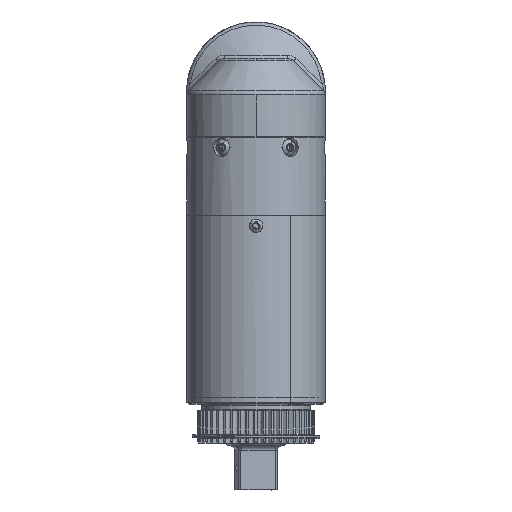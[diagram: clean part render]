
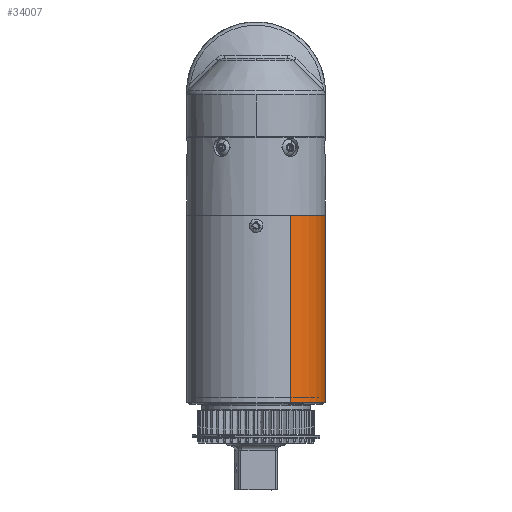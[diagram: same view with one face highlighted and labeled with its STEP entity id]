
A CAD part, top view. The second image highlights one B-rep face of the part: STEP entity #34007.
In plain terms, the highlighted cylindrical face has radius 33.655 mm (diameter 67.31 mm), a partial arc.
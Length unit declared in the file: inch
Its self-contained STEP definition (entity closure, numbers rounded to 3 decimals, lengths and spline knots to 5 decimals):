
#39 = CARTESIAN_POINT ( 'NONE',  ( 1.15758, -2.65834, 2.35899 ) ) ;
#148 = CARTESIAN_POINT ( 'NONE',  ( 1.11189, -2.54313, 2.28309 ) ) ;
#7502 = CARTESIAN_POINT ( 'NONE',  ( 1.13471, -2.50837, 2.31959 ) ) ;
#7677 = VERTEX_POINT ( 'NONE', #53025 ) ;
#8590 = CARTESIAN_POINT ( 'NONE',  ( 1.12084, -2.52363, 2.29709 ) ) ;
#9039 = CARTESIAN_POINT ( 'NONE',  ( 1.17059, -2.52044, 2.38297 ) ) ;
#10271 = CARTESIAN_POINT ( 'NONE',  ( 1.14231, -2.65987, 2.33235 ) ) ;
#10495 = VERTEX_POINT ( 'NONE', #83255 ) ;
#13197 = CARTESIAN_POINT ( 'NONE',  ( 0., -2.37738, 3.00375 ) ) ;
#15954 = CARTESIAN_POINT ( 'NONE',  ( 1.14491, -2.50438, 2.33679 ) ) ;
#17509 = CARTESIAN_POINT ( 'NONE',  ( 1.17242, -2.52367, 2.38644 ) ) ;
#18623 = VERTEX_POINT ( 'NONE', #47883 ) ;
#22236 = CARTESIAN_POINT ( 'NONE',  ( 1.1845, -2.57731, 2.40995 ) ) ;
#22467 = CARTESIAN_POINT ( 'NONE',  ( 1.11214, -2.62147, 2.28349 ) ) ;
#23340 = CARTESIAN_POINT ( 'NONE',  ( 1.17723, -2.62999, 2.39566 ) ) ;
#23490 = LINE ( 'NONE', #39871, #61104 ) ;
#24958 = CARTESIAN_POINT ( 'NONE',  ( 1.12745, -2.51468, 2.3077 ) ) ;
#26684 = ORIENTED_EDGE ( 'NONE', *, *, #108559, .T. ) ;
#26847 = EDGE_LOOP ( 'NONE', ( #50240, #83557, #37810, #97987 ) ) ;
#27737 = CARTESIAN_POINT ( 'NONE',  ( 1.12085, -2.64115, 2.29711 ) ) ;
#27908 = FACE_BOUND ( 'NONE', #56008, .T. ) ;
#28213 = EDGE_CURVE ( 'NONE', #18623, #99049, #41337, .T. ) ;
#28285 = CARTESIAN_POINT ( 'NONE',  ( 1.1298, -2.65248, 2.31151 ) ) ;
#28454 = DIRECTION ( 'NONE',  ( 0., -1., 0. ) ) ;
#28986 = AXIS2_PLACEMENT_3D ( 'NONE', #13197, #30106, #65067 ) ;
#29014 = DIRECTION ( 'NONE',  ( 0.5, 0., 0.866 ) ) ;
#30106 = DIRECTION ( 'NONE',  ( 0., 1., 0. ) ) ;
#30938 = CARTESIAN_POINT ( 'NONE',  ( 1.13722, -2.65787, 2.32376 ) ) ;
#31208 = VECTOR ( 'NONE', #90908, 39.37008 ) ;
#31256 = CARTESIAN_POINT ( 'NONE',  ( 1.18427, -2.57223, 2.4095 ) ) ;
#33851 = B_SPLINE_CURVE_WITH_KNOTS ( 'NONE', 3,
 ( #50357, #15954, #51476, #84766, #7502, #102277, #24958, #85888, #8590, #42993, #148, #34537, #68974, #103397, #73794, #105627, #47301, #99776, #22467, #104498, #56863, #27737, #87570, #108271, #28285, #70619, #30938, #10271, #44678, #45232 ),
 .UNSPECIFIED., .F., .F.,
 ( 4, 2, 2, 2, 2, 2, 2, 2, 2, 2, 2, 2, 2, 2, 4 ),
 ( 0., 0.00039, 0.00077, 0.00116, 0.00155, 0.00232, 0.0031, 0.00348, 0.00387, 0.00426, 0.00465, 0.00503, 0.00542, 0.00581, 0.00619 ),
 .UNSPECIFIED. ) ;
#34007 = ADVANCED_FACE ( 'NONE', ( #37483, #27908 ), #43739, .T. ) ;
#34429 = CARTESIAN_POINT ( 'NONE',  ( 1.17982, -2.62151, 2.40071 ) ) ;
#34537 = CARTESIAN_POINT ( 'NONE',  ( 1.10763, -2.5619, 2.27657 ) ) ;
#37483 = FACE_OUTER_BOUND ( 'NONE', #26847, .T. ) ;
#37810 = ORIENTED_EDGE ( 'NONE', *, *, #61172, .T. ) ;
#39871 = CARTESIAN_POINT ( 'NONE',  ( -0.6625, -2.37738, 1.85627 ) ) ;
#40737 = DIRECTION ( 'NONE',  ( 0., 1., 0. ) ) ;
#41337 = CIRCLE ( 'NONE', #104412, 1.325 ) ;
#42993 = CARTESIAN_POINT ( 'NONE',  ( 1.11505, -2.53443, 2.28797 ) ) ;
#43452 = CARTESIAN_POINT ( 'NONE',  ( 1.16657, -2.51473, 2.37546 ) ) ;
#43739 = CYLINDRICAL_SURFACE ( 'NONE', #48901, 1.325 ) ;
#44572 = CARTESIAN_POINT ( 'NONE',  ( 1.15264, -2.50438, 2.35018 ) ) ;
#44678 = CARTESIAN_POINT ( 'NONE',  ( 1.14492, -2.66038, 2.33682 ) ) ;
#45232 = CARTESIAN_POINT ( 'NONE',  ( 1.14747, -2.66038, 2.34123 ) ) ;
#45990 = VERTEX_POINT ( 'NONE', #96138 ) ;
#47301 = CARTESIAN_POINT ( 'NONE',  ( 1.10868, -2.60746, 2.27817 ) ) ;
#47883 = CARTESIAN_POINT ( 'NONE',  ( 0.6625, -5.95988, 4.15123 ) ) ;
#48177 = CARTESIAN_POINT ( 'NONE',  ( 1.15256, -2.66038, 2.35004 ) ) ;
#48901 = AXIS2_PLACEMENT_3D ( 'NONE', #61772, #28454, #29014 ) ;
#50240 = ORIENTED_EDGE ( 'NONE', *, *, #81073, .F. ) ;
#50357 = CARTESIAN_POINT ( 'NONE',  ( 1.14748, -2.50438, 2.34125 ) ) ;
#51476 = CARTESIAN_POINT ( 'NONE',  ( 1.14235, -2.50489, 2.33241 ) ) ;
#51911 = CARTESIAN_POINT ( 'NONE',  ( 1.1707, -2.64477, 2.38316 ) ) ;
#53025 = CARTESIAN_POINT ( 'NONE',  ( 1.14747, -2.66038, 2.34123 ) ) ;
#53038 = CARTESIAN_POINT ( 'NONE',  ( 1.14748, -2.50438, 2.34125 ) ) ;
#53659 = CARTESIAN_POINT ( 'NONE',  ( -0.6625, -5.95988, 1.85627 ) ) ;
#54137 = CARTESIAN_POINT ( 'NONE',  ( 1.16441, -2.5123, 2.37146 ) ) ;
#56008 = EDGE_LOOP ( 'NONE', ( #26684, #71083 ) ) ;
#56455 = CARTESIAN_POINT ( 'NONE',  ( 0.6625, -2.37738, 4.15123 ) ) ;
#56631 = CARTESIAN_POINT ( 'NONE',  ( 1.18338, -2.56226, 2.40774 ) ) ;
#56863 = CARTESIAN_POINT ( 'NONE',  ( 1.11695, -2.63387, 2.29096 ) ) ;
#57736 = CARTESIAN_POINT ( 'NONE',  ( 1.18449, -2.58761, 2.40994 ) ) ;
#60369 = CARTESIAN_POINT ( 'NONE',  ( 1.18426, -2.59267, 2.40949 ) ) ;
#61104 = VECTOR ( 'NONE', #100248, 39.37008 ) ;
#61172 = EDGE_CURVE ( 'NONE', #10495, #18623, #81870, .T. ) ;
#61772 = CARTESIAN_POINT ( 'NONE',  ( 0., -2.37738, 3.00375 ) ) ;
#62596 = CARTESIAN_POINT ( 'NONE',  ( 1.15765, -2.50645, 2.35911 ) ) ;
#63127 = EDGE_CURVE ( 'NONE', #7677, #45990, #73592, .T. ) ;
#65013 = CARTESIAN_POINT ( 'NONE',  ( 0., -5.95988, 3.00375 ) ) ;
#65067 = DIRECTION ( 'NONE',  ( -0.5, 0., -0.866 ) ) ;
#65672 = CARTESIAN_POINT ( 'NONE',  ( 1.17985, -2.54337, 2.40077 ) ) ;
#66228 = CARTESIAN_POINT ( 'NONE',  ( 1.16661, -2.65058, 2.37547 ) ) ;
#68974 = CARTESIAN_POINT ( 'NONE',  ( 1.1065, -2.57216, 2.27485 ) ) ;
#70619 = CARTESIAN_POINT ( 'NONE',  ( 1.13471, -2.65639, 2.31959 ) ) ;
#71083 = ORIENTED_EDGE ( 'NONE', *, *, #63127, .T. ) ;
#73010 = VERTEX_POINT ( 'NONE', #85823 ) ;
#73592 = B_SPLINE_CURVE_WITH_KNOTS ( 'NONE', 3,
 ( #86334, #48177, #39, #66228, #51911, #100654, #23340, #34429, #103291, #74127, #108596, #60369, #57736, #22236, #31256, #56631, #91082, #92194, #65672, #75231, #94811, #17509, #9039, #43452, #54137, #62596, #44572, #53038 ),
 .UNSPECIFIED., .F., .F.,
 ( 4, 2, 2, 2, 2, 2, 2, 2, 2, 2, 2, 2, 2, 4 ),
 ( 0.00619, 0.00697, 0.00774, 0.00813, 0.00852, 0.0089, 0.00929, 0.00968, 0.01007, 0.01045, 0.01084, 0.01123, 0.01162, 0.01239 ),
 .UNSPECIFIED. ) ;
#73794 = CARTESIAN_POINT ( 'NONE',  ( 1.10677, -2.5926, 2.27527 ) ) ;
#74127 = CARTESIAN_POINT ( 'NONE',  ( 1.18269, -2.6076, 2.40636 ) ) ;
#75231 = CARTESIAN_POINT ( 'NONE',  ( 1.17727, -2.53489, 2.39574 ) ) ;
#81073 = EDGE_CURVE ( 'NONE', #73010, #99049, #23490, .T. ) ;
#81870 = LINE ( 'NONE', #56455, #31208 ) ;
#83255 = CARTESIAN_POINT ( 'NONE',  ( 0.6625, -2.37738, 4.15123 ) ) ;
#83557 = ORIENTED_EDGE ( 'NONE', *, *, #100943, .F. ) ;
#84766 = CARTESIAN_POINT ( 'NONE',  ( 1.13726, -2.50687, 2.32384 ) ) ;
#85065 = CIRCLE ( 'NONE', #28986, 1.325 ) ;
#85823 = CARTESIAN_POINT ( 'NONE',  ( -0.6625, -2.37738, 1.85627 ) ) ;
#85888 = CARTESIAN_POINT ( 'NONE',  ( 1.12298, -2.52034, 2.30049 ) ) ;
#86334 = CARTESIAN_POINT ( 'NONE',  ( 1.14747, -2.66038, 2.34123 ) ) ;
#87570 = CARTESIAN_POINT ( 'NONE',  ( 1.12295, -2.64438, 2.30045 ) ) ;
#90908 = DIRECTION ( 'NONE',  ( 0., -1., 0. ) ) ;
#91082 = CARTESIAN_POINT ( 'NONE',  ( 1.18271, -2.55731, 2.4064 ) ) ;
#92194 = CARTESIAN_POINT ( 'NONE',  ( 1.18094, -2.54785, 2.40291 ) ) ;
#94811 = CARTESIAN_POINT ( 'NONE',  ( 1.17575, -2.53087, 2.39282 ) ) ;
#96138 = CARTESIAN_POINT ( 'NONE',  ( 1.14748, -2.50438, 2.34125 ) ) ;
#97987 = ORIENTED_EDGE ( 'NONE', *, *, #28213, .T. ) ;
#99049 = VERTEX_POINT ( 'NONE', #53659 ) ;
#99776 = CARTESIAN_POINT ( 'NONE',  ( 1.11081, -2.61691, 2.28144 ) ) ;
#100248 = DIRECTION ( 'NONE',  ( 0., -1., 0. ) ) ;
#100654 = CARTESIAN_POINT ( 'NONE',  ( 1.17571, -2.634, 2.39273 ) ) ;
#100943 = EDGE_CURVE ( 'NONE', #10495, #73010, #85065, .T. ) ;
#102277 = CARTESIAN_POINT ( 'NONE',  ( 1.1298, -2.51228, 2.31151 ) ) ;
#103291 = CARTESIAN_POINT ( 'NONE',  ( 1.18091, -2.61703, 2.40286 ) ) ;
#103397 = CARTESIAN_POINT ( 'NONE',  ( 1.10649, -2.58743, 2.27485 ) ) ;
#104412 = AXIS2_PLACEMENT_3D ( 'NONE', #65013, #40737, #107936 ) ;
#104498 = CARTESIAN_POINT ( 'NONE',  ( 1.11521, -2.62993, 2.28824 ) ) ;
#105627 = CARTESIAN_POINT ( 'NONE',  ( 1.10787, -2.6026, 2.27694 ) ) ;
#107936 = DIRECTION ( 'NONE',  ( -0.5, 0., -0.866 ) ) ;
#108271 = CARTESIAN_POINT ( 'NONE',  ( 1.12741, -2.65003, 2.30763 ) ) ;
#108559 = EDGE_CURVE ( 'NONE', #45990, #7677, #33851, .T. ) ;
#108596 = CARTESIAN_POINT ( 'NONE',  ( 1.18337, -2.60264, 2.40771 ) ) ;
